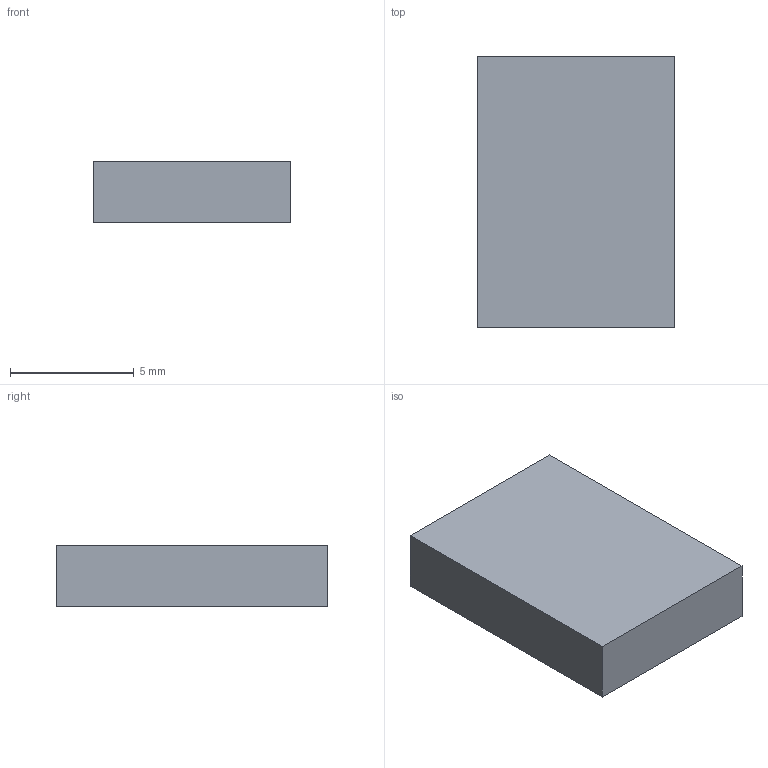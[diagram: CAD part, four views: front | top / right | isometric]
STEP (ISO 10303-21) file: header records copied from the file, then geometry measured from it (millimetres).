
FILE_DESCRIPTION(('Open CASCADE Model'),'2;1');
FILE_NAME('Open CASCADE Shape Model','2026-10-04T01:02:34',('Author'),( 'Open CASCADE'),'Open CASCADE STEP processor 8.0','Open CASCADE 8.0' ,'Unknown');
FILE_SCHEMA(('AUTOMOTIVE_DESIGN { 1 0 10303 214 1 1 1 1 }'));
Length unit declared in the file: millimetre
Products named in the file (1): Open CASCADE STEP translator 8.0 379
Bounding box: 8 x 11 x 2.5 mm (x, y, z)
Volume: 220 mm3; surface area: 271 mm2
Topology: 1 solids, 1 shells, 6 faces, 12 edges, 8 vertices
Faces by surface type: plane 6
Entity records: 322 total; most frequent: CARTESIAN_POINT 51, DIRECTION 50, LINE 36, VECTOR 36, ORIENTED_EDGE 24, PCURVE 24, DEFINITIONAL_REPRESENTATION 24, EDGE_CURVE 12
